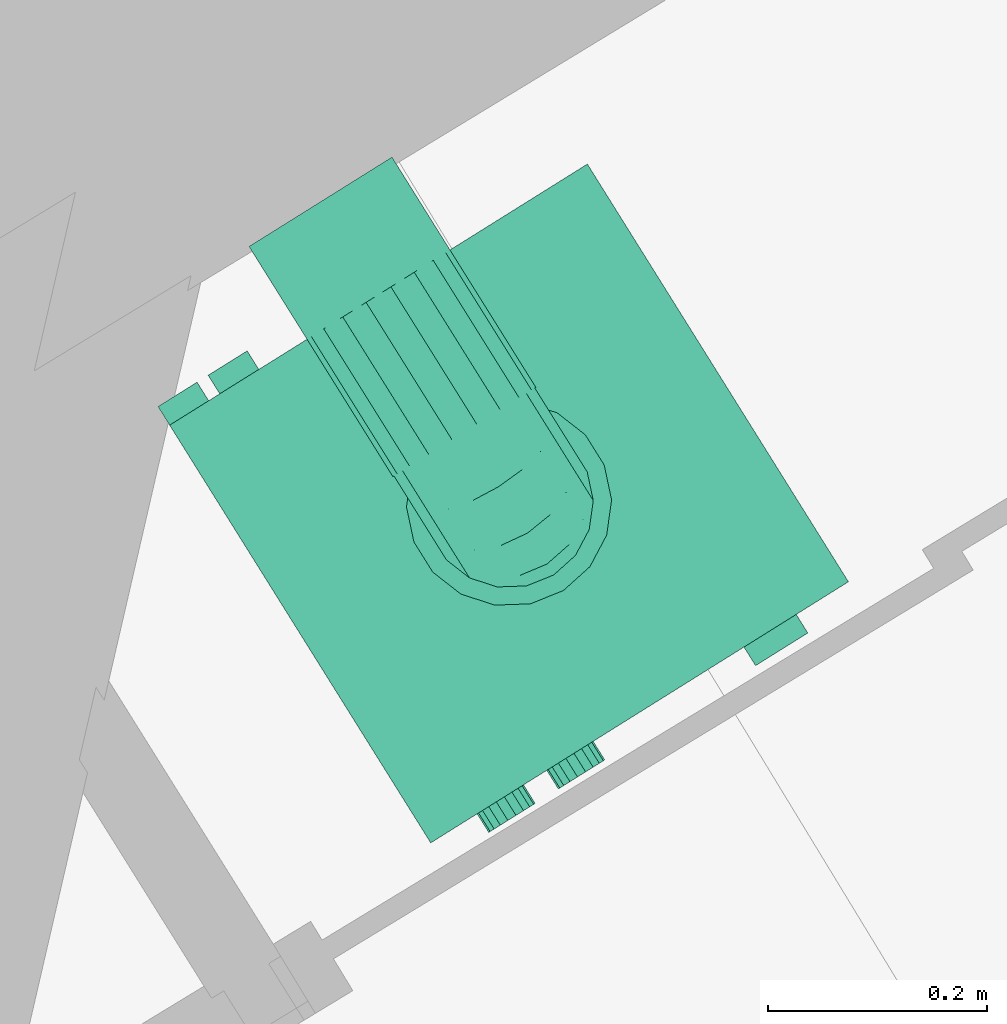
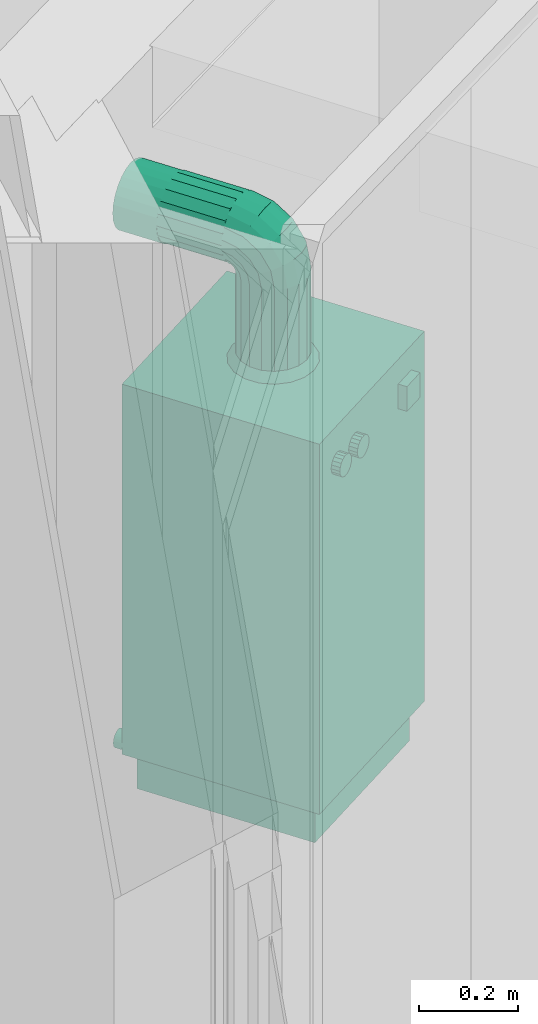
# One storey, part 109 of 119: 1 energy conversion device.
"""IFC2X3 building model written with IfcOpenShell, lengths in metres."""

from ifc_helpers import new_model, entity, si_unit, converted_unit, derived_unit, money_unit, direction, frame, origin_with_axes, place, context, subcontext, project, spatial, open_shell, faceted_brep, surface_model, source, transform, mapped, type_object, element, save


model = new_model("IFC2X3")

# Units and contexts
model_context = context("Model", 3, precision=1e-05, world=origin_with_axes(), true_north=direction((0.0, 1.0)))
body_context = subcontext(model_context, "Body", "Model", "MODEL_VIEW")
ifc_project = project(units=[si_unit("LENGTHUNIT", "METRE"), si_unit("AREAUNIT", "SQUARE_METRE"), si_unit("VOLUMEUNIT", "CUBIC_METRE"), converted_unit("PLANEANGLEUNIT", "DEGREE", entity("IfcPlaneAngleMeasure", 0.0174532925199), si_unit("PLANEANGLEUNIT", "RADIAN"), dimensions=[0, 0, 0, 0, 0, 0, 0]), si_unit("SOLIDANGLEUNIT", "STERADIAN"), money_unit("EUR"), converted_unit("TIMEUNIT", "Year", entity("IfcTimeMeasure", 31556926.0), si_unit("TIMEUNIT", "SECOND"), dimensions=[0, 0, 1, 0, 0, 0, 0]), si_unit("MASSUNIT", "GRAM", prefix="KILO"), si_unit("THERMODYNAMICTEMPERATUREUNIT", "DEGREE_CELSIUS"), si_unit("LUMINOUSINTENSITYUNIT", "LUMEN"), si_unit("ENERGYUNIT", "JOULE", prefix="MEGA"), derived_unit("THERMALCONDUCTANCEUNIT", [(si_unit("POWERUNIT", "WATT"), 1), (si_unit("LENGTHUNIT", "METRE"), -1), (si_unit("THERMODYNAMICTEMPERATUREUNIT", "KELVIN"), -1)]), derived_unit("SPECIFICHEATCAPACITYUNIT", [(si_unit("ENERGYUNIT", "JOULE"), 1), (si_unit("MASSUNIT", "GRAM", prefix="KILO"), -1), (si_unit("THERMODYNAMICTEMPERATUREUNIT", "KELVIN"), -1)]), derived_unit("MASSDENSITYUNIT", [(si_unit("MASSUNIT", "GRAM", prefix="KILO"), 1), (si_unit("VOLUMEUNIT", "CUBIC_METRE"), -1)])], contexts=[model_context])

# Site, building, storey
site_placement = place(None, origin_with_axes())
site = spatial("IfcSite", under=ifc_project, at=site_placement, Name="Site", CompositionType="ELEMENT")
building_placement = place(site_placement, origin_with_axes())
building = spatial("IfcBuilding", under=site, at=building_placement, Name="Bâtiment", CompositionType="ELEMENT")
storey_placement = place(building_placement, origin_with_axes())
storey = spatial("IfcBuildingStorey", under=building, at=storey_placement, Name="Rez-de-chaussée", CompositionType="ELEMENT", Elevation=0.0)

# Energy conversion device
boiler_type = type_object("IfcBoilerType", Name="Chaudière à gaz 23", PredefinedType="WATER")
shared_shape = source(origin_with_axes(), body_context, "Body", "SurfaceModel", [
    surface_model("IfcShellBasedSurfaceModel", [(-0.2, 0.45, 0.090909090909), (-0.2, 0.47, 0.090909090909), (-0.194564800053, 0.47, 0.0916246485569), (-0.194564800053, 0.45, 0.0916246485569), (-0.205435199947, 0.45, 0.0916246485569), (-0.205435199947, 0.47, 0.0916246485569), (-0.1895, 0.47, 0.0937225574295), (-0.1895, 0.45, 0.0937225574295), (-0.2105, 0.45, 0.0937225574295), (-0.2105, 0.47, 0.0937225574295), (-0.185150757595, 0.47, 0.0970598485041), (-0.185150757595, 0.45, 0.0970598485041), (-0.214849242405, 0.45, 0.0970598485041), (-0.214849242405, 0.47, 0.0970598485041), (-0.181813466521, 0.47, 0.101409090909), (-0.181813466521, 0.45, 0.101409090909), (-0.218186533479, 0.45, 0.101409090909), (-0.218186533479, 0.47, 0.101409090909), (-0.179715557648, 0.47, 0.106473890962), (-0.179715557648, 0.45, 0.106473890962), (-0.220284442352, 0.45, 0.106473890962), (-0.220284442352, 0.47, 0.106473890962), (-0.179, 0.47, 0.111909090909), (-0.179, 0.45, 0.111909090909), (-0.221, 0.45, 0.111909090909), (-0.221, 0.47, 0.111909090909), (-0.179715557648, 0.47, 0.117344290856), (-0.179715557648, 0.45, 0.117344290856), (-0.220284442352, 0.45, 0.117344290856), (-0.220284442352, 0.47, 0.117344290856), (-0.181813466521, 0.47, 0.122409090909), (-0.181813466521, 0.45, 0.122409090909), (-0.218186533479, 0.45, 0.122409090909), (-0.218186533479, 0.47, 0.122409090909), (-0.185150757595, 0.47, 0.126758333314), (-0.185150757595, 0.45, 0.126758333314), (-0.214849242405, 0.45, 0.126758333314), (-0.214849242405, 0.47, 0.126758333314), (-0.1895, 0.47, 0.130095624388), (-0.1895, 0.45, 0.130095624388), (-0.2105, 0.45, 0.130095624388), (-0.2105, 0.47, 0.130095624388), (-0.194564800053, 0.47, 0.132193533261), (-0.194564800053, 0.45, 0.132193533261), (-0.205435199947, 0.45, 0.132193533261), (-0.205435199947, 0.47, 0.132193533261), (-0.2, 0.47, 0.132909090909), (-0.2, 0.45, 0.132909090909)], [open_shell([[[0, 1, 2, 3]], [[4, 5, 1, 0]], [[3, 2, 6, 7]], [[8, 9, 5, 4]], [[7, 6, 10, 11]], [[12, 13, 9, 8]], [[11, 10, 14, 15]], [[16, 17, 13, 12]], [[15, 14, 18, 19]], [[20, 21, 17, 16]], [[19, 18, 22, 23]], [[24, 25, 21, 20]], [[23, 22, 26, 27]], [[28, 29, 25, 24]], [[27, 26, 30, 31]], [[32, 33, 29, 28]], [[31, 30, 34, 35]], [[36, 37, 33, 32]], [[35, 34, 38, 39]], [[40, 41, 37, 36]], [[39, 38, 42, 43]], [[44, 45, 41, 40]], [[43, 42, 46, 47]], [[47, 46, 45, 44]]])]),
    surface_model("IfcShellBasedSurfaceModel", [(-0.375, 0.45, 0.090909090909), (-0.375, 0.47, 0.090909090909), (-0.369564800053, 0.47, 0.0916246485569), (-0.369564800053, 0.45, 0.0916246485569), (-0.380435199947, 0.45, 0.0916246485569), (-0.380435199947, 0.47, 0.0916246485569), (-0.3645, 0.47, 0.0937225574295), (-0.3645, 0.45, 0.0937225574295), (-0.3855, 0.45, 0.0937225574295), (-0.3855, 0.47, 0.0937225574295), (-0.360150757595, 0.47, 0.0970598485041), (-0.360150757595, 0.45, 0.0970598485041), (-0.389849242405, 0.45, 0.0970598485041), (-0.389849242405, 0.47, 0.0970598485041), (-0.356813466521, 0.47, 0.101409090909), (-0.356813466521, 0.45, 0.101409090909), (-0.393186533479, 0.45, 0.101409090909), (-0.393186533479, 0.47, 0.101409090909), (-0.354715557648, 0.47, 0.106473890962), (-0.354715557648, 0.45, 0.106473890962), (-0.395284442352, 0.45, 0.106473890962), (-0.395284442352, 0.47, 0.106473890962), (-0.354, 0.47, 0.111909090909), (-0.354, 0.45, 0.111909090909), (-0.396, 0.45, 0.111909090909), (-0.396, 0.47, 0.111909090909), (-0.354715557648, 0.47, 0.117344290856), (-0.354715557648, 0.45, 0.117344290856), (-0.395284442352, 0.45, 0.117344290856), (-0.395284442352, 0.47, 0.117344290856), (-0.356813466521, 0.47, 0.122409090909), (-0.356813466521, 0.45, 0.122409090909), (-0.393186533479, 0.45, 0.122409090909), (-0.393186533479, 0.47, 0.122409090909), (-0.360150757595, 0.47, 0.126758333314), (-0.360150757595, 0.45, 0.126758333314), (-0.389849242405, 0.45, 0.126758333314), (-0.389849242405, 0.47, 0.126758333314), (-0.3645, 0.47, 0.130095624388), (-0.3645, 0.45, 0.130095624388), (-0.3855, 0.45, 0.130095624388), (-0.3855, 0.47, 0.130095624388), (-0.369564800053, 0.47, 0.132193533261), (-0.369564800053, 0.45, 0.132193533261), (-0.380435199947, 0.45, 0.132193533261), (-0.380435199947, 0.47, 0.132193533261), (-0.375, 0.47, 0.132909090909), (-0.375, 0.45, 0.132909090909)], [open_shell([[[0, 1, 2, 3]], [[4, 5, 1, 0]], [[3, 2, 6, 7]], [[8, 9, 5, 4]], [[7, 6, 10, 11]], [[12, 13, 9, 8]], [[11, 10, 14, 15]], [[16, 17, 13, 12]], [[15, 14, 18, 19]], [[20, 21, 17, 16]], [[19, 18, 22, 23]], [[24, 25, 21, 20]], [[23, 22, 26, 27]], [[28, 29, 25, 24]], [[27, 26, 30, 31]], [[32, 33, 29, 28]], [[31, 30, 34, 35]], [[36, 37, 33, 32]], [[35, 34, 38, 39]], [[40, 41, 37, 36]], [[39, 38, 42, 43]], [[44, 45, 41, 40]], [[43, 42, 46, 47]], [[47, 46, 45, 44]]])]),
    surface_model("IfcShellBasedSurfaceModel", [(-0.429, 0.45, 0.090909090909), (-0.429, 0.47, 0.090909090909), (-0.423564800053, 0.47, 0.0916246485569), (-0.423564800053, 0.45, 0.0916246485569), (-0.434435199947, 0.45, 0.0916246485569), (-0.434435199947, 0.47, 0.0916246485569), (-0.4185, 0.47, 0.0937225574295), (-0.4185, 0.45, 0.0937225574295), (-0.4395, 0.45, 0.0937225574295), (-0.4395, 0.47, 0.0937225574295), (-0.414150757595, 0.47, 0.0970598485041), (-0.414150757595, 0.45, 0.0970598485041), (-0.443849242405, 0.45, 0.0970598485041), (-0.443849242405, 0.47, 0.0970598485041), (-0.410813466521, 0.47, 0.101409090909), (-0.410813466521, 0.45, 0.101409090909), (-0.447186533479, 0.45, 0.101409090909), (-0.447186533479, 0.47, 0.101409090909), (-0.408715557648, 0.47, 0.106473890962), (-0.408715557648, 0.45, 0.106473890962), (-0.449284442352, 0.45, 0.106473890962), (-0.449284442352, 0.47, 0.106473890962), (-0.408, 0.47, 0.111909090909), (-0.408, 0.45, 0.111909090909), (-0.45, 0.45, 0.111909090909), (-0.45, 0.47, 0.111909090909), (-0.408715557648, 0.47, 0.117344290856), (-0.408715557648, 0.45, 0.117344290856), (-0.449284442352, 0.45, 0.117344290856), (-0.449284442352, 0.47, 0.117344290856), (-0.410813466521, 0.47, 0.122409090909), (-0.410813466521, 0.45, 0.122409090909), (-0.447186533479, 0.45, 0.122409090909), (-0.447186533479, 0.47, 0.122409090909), (-0.414150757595, 0.47, 0.126758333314), (-0.414150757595, 0.45, 0.126758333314), (-0.443849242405, 0.45, 0.126758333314), (-0.443849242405, 0.47, 0.126758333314), (-0.4185, 0.47, 0.130095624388), (-0.4185, 0.45, 0.130095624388), (-0.4395, 0.45, 0.130095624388), (-0.4395, 0.47, 0.130095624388), (-0.423564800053, 0.47, 0.132193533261), (-0.423564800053, 0.45, 0.132193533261), (-0.434435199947, 0.45, 0.132193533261), (-0.434435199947, 0.47, 0.132193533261), (-0.429, 0.47, 0.132909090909), (-0.429, 0.45, 0.132909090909)], [open_shell([[[0, 1, 2, 3]], [[4, 5, 1, 0]], [[3, 2, 6, 7]], [[8, 9, 5, 4]], [[7, 6, 10, 11]], [[12, 13, 9, 8]], [[11, 10, 14, 15]], [[16, 17, 13, 12]], [[15, 14, 18, 19]], [[20, 21, 17, 16]], [[19, 18, 22, 23]], [[24, 25, 21, 20]], [[23, 22, 26, 27]], [[28, 29, 25, 24]], [[27, 26, 30, 31]], [[32, 33, 29, 28]], [[31, 30, 34, 35]], [[36, 37, 33, 32]], [[35, 34, 38, 39]], [[40, 41, 37, 36]], [[39, 38, 42, 43]], [[44, 45, 41, 40]], [[43, 42, 46, 47]], [[47, 46, 45, 44]]])]),
    surface_model("IfcShellBasedSurfaceModel", [(-0.225, 0.45, 1.218), (-0.225, 0.55, 1.218), (-0.205070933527, 0.55, 1.22062371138), (-0.205070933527, 0.45, 1.22062371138), (-0.244929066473, 0.45, 1.22062371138), (-0.244929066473, 0.55, 1.22062371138), (-0.1865, 0.55, 1.22831604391), (-0.1865, 0.45, 1.22831604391), (-0.2635, 0.45, 1.22831604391), (-0.2635, 0.55, 1.22831604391), (-0.170552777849, 0.55, 1.24055277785), (-0.170552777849, 0.45, 1.24055277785), (-0.279447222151, 0.45, 1.24055277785), (-0.279447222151, 0.55, 1.24055277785), (-0.158316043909, 0.55, 1.2565), (-0.158316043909, 0.45, 1.2565), (-0.291683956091, 0.45, 1.2565), (-0.291683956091, 0.55, 1.2565), (-0.150623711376, 0.55, 1.27507093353), (-0.150623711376, 0.45, 1.27507093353), (-0.299376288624, 0.45, 1.27507093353), (-0.299376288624, 0.55, 1.27507093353), (-0.148, 0.55, 1.295), (-0.148, 0.45, 1.295), (-0.302, 0.45, 1.295), (-0.302, 0.55, 1.295), (-0.150623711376, 0.55, 1.31492906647), (-0.150623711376, 0.45, 1.31492906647), (-0.299376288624, 0.45, 1.31492906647), (-0.299376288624, 0.55, 1.31492906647), (-0.158316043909, 0.55, 1.3335), (-0.158316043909, 0.45, 1.3335), (-0.291683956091, 0.45, 1.3335), (-0.291683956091, 0.55, 1.3335), (-0.170552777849, 0.55, 1.34944722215), (-0.170552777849, 0.45, 1.34944722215), (-0.279447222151, 0.45, 1.34944722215), (-0.279447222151, 0.55, 1.34944722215), (-0.1865, 0.55, 1.36168395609), (-0.1865, 0.45, 1.36168395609), (-0.2635, 0.45, 1.36168395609), (-0.2635, 0.55, 1.36168395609), (-0.205070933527, 0.55, 1.36937628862), (-0.205070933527, 0.45, 1.36937628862), (-0.244929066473, 0.45, 1.36937628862), (-0.244929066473, 0.55, 1.36937628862), (-0.225, 0.55, 1.372), (-0.225, 0.45, 1.372)], [open_shell([[[0, 1, 2, 3]], [[4, 5, 1, 0]], [[3, 2, 6, 7]], [[8, 9, 5, 4]], [[7, 6, 10, 11]], [[12, 13, 9, 8]], [[11, 10, 14, 15]], [[16, 17, 13, 12]], [[15, 14, 18, 19]], [[20, 21, 17, 16]], [[19, 18, 22, 23]], [[24, 25, 21, 20]], [[23, 22, 26, 27]], [[28, 29, 25, 24]], [[27, 26, 30, 31]], [[32, 33, 29, 28]], [[31, 30, 34, 35]], [[36, 37, 33, 32]], [[35, 34, 38, 39]], [[40, 41, 37, 36]], [[39, 38, 42, 43]], [[44, 45, 41, 40]], [[43, 42, 46, 47]], [[47, 46, 45, 44]]])]),
    faceted_brep([(-0.4275, 0.0225, 0.0), (-0.4275, 0.4275, 0.0), (-0.0225, 0.4275, 0.0), (-0.0225, 0.0225, 0.0), (-0.4275, 0.0225, 0.0909090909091), (-0.4275, 0.4275, 0.0909090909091), (-0.0225, 0.4275, 0.0909090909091), (-0.0225, 0.0225, 0.0909090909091)], [[[0, 1, 2, 3]], [[0, 4, 5, 1]], [[1, 5, 6, 2]], [[2, 6, 7, 3]], [[3, 7, 4, 0]], [[7, 6, 5, 4]]]),
    faceted_brep([(0.0, 0.45, 0.0909090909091), (-0.45, 0.45, 0.0909090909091), (-0.45, 0.45, 1.0), (0.0, 0.45, 1.0), (0.0, 0.0, 0.0909090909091), (-0.45, 0.0, 0.0909090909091), (-0.45, 0.0, 0.818181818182), (-0.45, 0.0225, 0.818181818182), (-0.45, 0.0225, 1.0), (0.0, 0.0225, 1.0), (0.0, 0.0225, 0.818181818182), (0.0, 0.0, 0.818181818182)], [[[0, 1, 2, 3]], [[4, 5, 1, 0]], [[1, 5, 6, 7, 8, 2]], [[3, 2, 8, 9]], [[0, 3, 9, 10, 11, 4]], [[11, 6, 5, 4]], [[10, 7, 6, 11]], [[9, 8, 7, 10]]]),
    faceted_brep([(-0.45, 0.0, 0.818181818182), (-0.45, 0.0225, 0.818181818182), (0.0, 0.0225, 0.818181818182), (0.0, 0.0, 0.818181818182), (-0.45, 0.0, 1.0), (-0.45, 0.0225, 1.0), (0.0, 0.0225, 1.0), (0.0, 0.0, 1.0)], [[[0, 1, 2, 3]], [[0, 4, 5, 1]], [[1, 5, 6, 2]], [[2, 6, 7, 3]], [[3, 7, 4, 0]], [[7, 6, 5, 4]]]),
    faceted_brep([(-0.32349231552, 0.0, 0.900540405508), (-0.325, 0.0, 0.909090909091), (-0.32349231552, 0.0, 0.917641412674), (-0.319151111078, 0.0, 0.925160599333), (-0.3125, 0.0, 0.930741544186), (-0.304341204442, 0.0, 0.933711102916), (-0.295658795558, 0.0, 0.933711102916), (-0.2875, 0.0, 0.930741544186), (-0.280848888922, 0.0, 0.925160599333), (-0.27650768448, 0.0, 0.917641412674), (-0.275, 0.0, 0.909090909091), (-0.27650768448, 0.0, 0.900540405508), (-0.280848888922, 0.0, 0.893021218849), (-0.2875, 0.0, 0.887440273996), (-0.295658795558, 0.0, 0.884470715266), (-0.304341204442, 0.0, 0.884470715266), (-0.3125, 0.0, 0.887440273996), (-0.319151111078, 0.0, 0.893021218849), (-0.32349231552, -0.02, 0.900540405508), (-0.325, -0.02, 0.909090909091), (-0.32349231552, -0.02, 0.917641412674), (-0.319151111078, -0.02, 0.925160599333), (-0.3125, -0.02, 0.930741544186), (-0.304341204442, -0.02, 0.933711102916), (-0.295658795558, -0.02, 0.933711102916), (-0.2875, -0.02, 0.930741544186), (-0.280848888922, -0.02, 0.925160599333), (-0.27650768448, -0.02, 0.917641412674), (-0.275, -0.02, 0.909090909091), (-0.27650768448, -0.02, 0.900540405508), (-0.280848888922, -0.02, 0.893021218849), (-0.2875, -0.02, 0.887440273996), (-0.295658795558, -0.02, 0.884470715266), (-0.304341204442, -0.02, 0.884470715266), (-0.3125, -0.02, 0.887440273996), (-0.319151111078, -0.02, 0.893021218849)], [[[0, 1, 2, 3, 4, 5, 6, 7, 8, 9, 10, 11, 12, 13, 14, 15, 16, 17]], [[0, 18, 19, 1]], [[1, 19, 20, 2]], [[2, 20, 21, 3]], [[3, 21, 22, 4]], [[4, 22, 23, 5]], [[5, 23, 24, 6]], [[6, 24, 25, 7]], [[7, 25, 26, 8]], [[8, 26, 27, 9]], [[9, 27, 28, 10]], [[10, 28, 29, 11]], [[11, 29, 30, 12]], [[12, 30, 31, 13]], [[13, 31, 32, 14]], [[14, 32, 33, 15]], [[15, 33, 34, 16]], [[16, 34, 35, 17]], [[17, 35, 18, 0]], [[18, 35, 34, 33, 32, 31, 30, 29, 28, 27, 26, 25, 24, 23, 22, 21, 20, 19]]]),
    faceted_brep([(-0.39849231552, 0.0, 0.900540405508), (-0.4, 0.0, 0.909090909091), (-0.39849231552, 0.0, 0.917641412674), (-0.394151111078, 0.0, 0.925160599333), (-0.3875, 0.0, 0.930741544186), (-0.379341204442, 0.0, 0.933711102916), (-0.370658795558, 0.0, 0.933711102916), (-0.3625, 0.0, 0.930741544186), (-0.355848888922, 0.0, 0.925160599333), (-0.35150768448, 0.0, 0.917641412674), (-0.35, 0.0, 0.909090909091), (-0.35150768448, 0.0, 0.900540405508), (-0.355848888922, 0.0, 0.893021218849), (-0.3625, 0.0, 0.887440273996), (-0.370658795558, 0.0, 0.884470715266), (-0.379341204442, 0.0, 0.884470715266), (-0.3875, 0.0, 0.887440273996), (-0.394151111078, 0.0, 0.893021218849), (-0.39849231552, -0.02, 0.900540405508), (-0.4, -0.02, 0.909090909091), (-0.39849231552, -0.02, 0.917641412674), (-0.394151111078, -0.02, 0.925160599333), (-0.3875, -0.02, 0.930741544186), (-0.379341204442, -0.02, 0.933711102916), (-0.370658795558, -0.02, 0.933711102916), (-0.3625, -0.02, 0.930741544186), (-0.355848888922, -0.02, 0.925160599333), (-0.35150768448, -0.02, 0.917641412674), (-0.35, -0.02, 0.909090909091), (-0.35150768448, -0.02, 0.900540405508), (-0.355848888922, -0.02, 0.893021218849), (-0.3625, -0.02, 0.887440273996), (-0.370658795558, -0.02, 0.884470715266), (-0.379341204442, -0.02, 0.884470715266), (-0.3875, -0.02, 0.887440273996), (-0.394151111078, -0.02, 0.893021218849)], [[[0, 1, 2, 3, 4, 5, 6, 7, 8, 9, 10, 11, 12, 13, 14, 15, 16, 17]], [[0, 18, 19, 1]], [[1, 19, 20, 2]], [[2, 20, 21, 3]], [[3, 21, 22, 4]], [[4, 22, 23, 5]], [[5, 23, 24, 6]], [[6, 24, 25, 7]], [[7, 25, 26, 8]], [[8, 26, 27, 9]], [[9, 27, 28, 10]], [[10, 28, 29, 11]], [[11, 29, 30, 12]], [[12, 30, 31, 13]], [[13, 31, 32, 14]], [[14, 32, 33, 15]], [[15, 33, 34, 16]], [[16, 34, 35, 17]], [[17, 35, 18, 0]], [[18, 35, 34, 33, 32, 31, 30, 29, 28, 27, 26, 25, 24, 23, 22, 21, 20, 19]]]),
    faceted_brep([(-0.1125, 0.0, 0.878787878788), (-0.1125, 0.0, 0.939393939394), (-0.05625, 0.0, 0.939393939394), (-0.05625, 0.0, 0.878787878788), (-0.1125, -0.02, 0.878787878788), (-0.1125, -0.02, 0.939393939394), (-0.05625, -0.02, 0.939393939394), (-0.05625, -0.02, 0.878787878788)], [[[0, 1, 2, 3]], [[0, 4, 5, 1]], [[1, 5, 6, 2]], [[2, 6, 7, 3]], [[3, 7, 4, 0]], [[7, 6, 5, 4]]]),
    surface_model("IfcShellBasedSurfaceModel", [(-0.198664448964, 0.297356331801, 1.22), (-0.198664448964, 0.297356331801, 1.02), (-0.225, 0.302, 1.02), (-0.225, 0.302, 1.22), (-0.175505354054, 0.28398542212, 1.22), (-0.175505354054, 0.28398542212, 1.02), (-0.192935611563, 0.313096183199, 1.0), (-0.225, 0.31875, 1.0), (-0.251335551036, 0.297356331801, 1.02), (-0.251335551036, 0.297356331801, 1.22), (-0.158316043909, 0.2635, 1.22), (-0.158316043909, 0.2635, 1.02), (-0.164738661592, 0.296816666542, 1.0), (-0.257064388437, 0.313096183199, 1.0), (-0.274494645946, 0.28398542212, 1.02), (-0.274494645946, 0.28398542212, 1.22), (-0.149169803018, 0.23837090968, 1.22), (-0.149169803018, 0.23837090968, 1.02), (-0.143810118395, 0.271875, 1.0), (-0.285261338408, 0.296816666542, 1.0), (-0.291683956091, 0.2635, 1.02), (-0.291683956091, 0.2635, 1.22), (-0.149169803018, 0.21162909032, 1.22), (-0.149169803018, 0.21162909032, 1.02), (-0.132674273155, 0.241279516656, 1.0), (-0.306189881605, 0.271875, 1.0), (-0.300830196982, 0.23837090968, 1.02), (-0.300830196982, 0.23837090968, 1.22), (-0.158316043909, 0.1865, 1.22), (-0.158316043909, 0.1865, 1.02), (-0.132674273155, 0.208720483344, 1.0), (-0.317325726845, 0.241279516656, 1.0), (-0.300830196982, 0.21162909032, 1.02), (-0.300830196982, 0.21162909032, 1.22), (-0.175505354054, 0.16601457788, 1.22), (-0.175505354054, 0.16601457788, 1.02), (-0.143810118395, 0.178125, 1.0), (-0.317325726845, 0.208720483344, 1.0), (-0.291683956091, 0.1865, 1.02), (-0.291683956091, 0.1865, 1.22), (-0.198664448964, 0.152643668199, 1.22), (-0.198664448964, 0.152643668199, 1.02), (-0.164738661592, 0.153183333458, 1.0), (-0.306189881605, 0.178125, 1.0), (-0.274494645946, 0.16601457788, 1.02), (-0.274494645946, 0.16601457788, 1.22), (-0.225, 0.148, 1.22), (-0.225, 0.148, 1.02), (-0.192935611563, 0.136903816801, 1.0), (-0.285261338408, 0.153183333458, 1.0), (-0.251335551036, 0.152643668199, 1.02), (-0.251335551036, 0.152643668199, 1.22), (-0.225, 0.13125, 1.0), (-0.257064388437, 0.136903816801, 1.0)], [open_shell([[[0, 1, 2, 3]], [[4, 5, 1, 0]], [[1, 6, 7, 2]], [[3, 2, 8, 9]], [[10, 11, 5, 4]], [[5, 12, 6, 1]], [[2, 7, 13, 8]], [[9, 8, 14, 15]], [[16, 17, 11, 10]], [[11, 18, 12, 5]], [[8, 13, 19, 14]], [[15, 14, 20, 21]], [[22, 23, 17, 16]], [[17, 24, 18, 11]], [[14, 19, 25, 20]], [[21, 20, 26, 27]], [[28, 29, 23, 22]], [[23, 30, 24, 17]], [[20, 25, 31, 26]], [[27, 26, 32, 33]], [[34, 35, 29, 28]], [[29, 36, 30, 23]], [[26, 31, 37, 32]], [[33, 32, 38, 39]], [[40, 41, 35, 34]], [[35, 42, 36, 29]], [[32, 37, 43, 38]], [[39, 38, 44, 45]], [[46, 47, 41, 40]], [[41, 48, 42, 35]], [[38, 43, 49, 44]], [[45, 44, 50, 51]], [[51, 50, 47, 46]], [[47, 52, 48, 41]], [[44, 49, 53, 50]], [[50, 53, 52, 47]]])]),
    faceted_brep([(-0.300830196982, 0.218508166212, 1.2545834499), (-0.300830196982, 0.21162909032, 1.22), (-0.291683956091, 0.1865, 1.22), (-0.291683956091, 0.195291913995, 1.26419993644), (-0.300830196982, 0.243214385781, 1.24434979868), (-0.300830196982, 0.23837090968, 1.22), (-0.291683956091, 0.2635, 1.22), (-0.274494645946, 0.28398542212, 1.22), (-0.251335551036, 0.297356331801, 1.22), (-0.225, 0.302, 1.22), (-0.198664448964, 0.297356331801, 1.22), (-0.175505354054, 0.28398542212, 1.22), (-0.158316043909, 0.2635, 1.22), (-0.149169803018, 0.23837090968, 1.22), (-0.149169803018, 0.21162909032, 1.22), (-0.158316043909, 0.1865, 1.22), (-0.175505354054, 0.16601457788, 1.22), (-0.198664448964, 0.152643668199, 1.22), (-0.225, 0.148, 1.22), (-0.251335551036, 0.152643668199, 1.22), (-0.274494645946, 0.16601457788, 1.22), (-0.274494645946, 0.176365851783, 1.27203936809), (-0.300830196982, 0.238098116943, 1.28390188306), (-0.291683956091, 0.220329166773, 1.30167083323), (-0.300830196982, 0.257007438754, 1.26499256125), (-0.291683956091, 0.266430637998, 1.23473331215), (-0.274494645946, 0.28535670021, 1.2268938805), (-0.251335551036, 0.297709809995, 1.22177705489), (-0.198664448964, 0.297709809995, 1.22177705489), (-0.175505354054, 0.28535670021, 1.2268938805), (-0.158316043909, 0.266430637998, 1.23473331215), (-0.149169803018, 0.243214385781, 1.24434979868), (-0.149169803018, 0.218508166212, 1.2545834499), (-0.158316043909, 0.195291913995, 1.26419993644), (-0.175505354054, 0.176365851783, 1.27203936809), (-0.198664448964, 0.164012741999, 1.2771561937), (-0.225, 0.159722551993, 1.27893324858), (-0.251335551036, 0.164012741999, 1.2771561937), (-0.274494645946, 0.205843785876, 1.31615621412), (-0.291683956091, 0.257800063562, 1.32670808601), (-0.300830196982, 0.267416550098, 1.30349183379), (-0.300830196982, 0.277650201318, 1.27878561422), (-0.291683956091, 0.274776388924, 1.24722361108), (-0.274494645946, 0.289261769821, 1.23273823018), (-0.251335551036, 0.298716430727, 1.22328356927), (-0.198664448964, 0.298716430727, 1.22328356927), (-0.175505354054, 0.289261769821, 1.23273823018), (-0.158316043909, 0.274776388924, 1.24722361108), (-0.149169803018, 0.257007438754, 1.26499256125), (-0.149169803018, 0.238098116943, 1.28390188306), (-0.158316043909, 0.220329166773, 1.30167083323), (-0.175505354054, 0.205843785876, 1.31615621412), (-0.198664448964, 0.196389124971, 1.32561087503), (-0.225, 0.193105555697, 1.3288944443), (-0.251335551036, 0.196389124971, 1.32561087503), (-0.274494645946, 0.249960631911, 1.34563414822), (-0.291683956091, 0.302, 1.3355), (-0.300830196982, 0.302, 1.31037090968), (-0.300830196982, 0.302, 1.28362909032), (-0.291683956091, 0.287266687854, 1.255569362), (-0.274494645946, 0.295106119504, 1.23664329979), (-0.251335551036, 0.300222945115, 1.22429019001), (-0.198664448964, 0.300222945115, 1.22429019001), (-0.175505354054, 0.295106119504, 1.23664329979), (-0.158316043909, 0.287266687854, 1.255569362), (-0.149169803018, 0.277650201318, 1.27878561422), (-0.149169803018, 0.267416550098, 1.30349183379), (-0.158316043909, 0.257800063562, 1.32670808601), (-0.175505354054, 0.249960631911, 1.34563414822), (-0.198664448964, 0.244843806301, 1.357987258), (-0.225, 0.243066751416, 1.36227744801), (-0.251335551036, 0.244843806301, 1.357987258), (-0.274494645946, 0.302, 1.35598542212), (-0.291683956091, 0.302, 1.2585), (-0.251335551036, 0.302, 1.3693563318), (-0.225, 0.302, 1.374), (-0.198664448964, 0.302, 1.3693563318), (-0.175505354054, 0.302, 1.35598542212), (-0.158316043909, 0.302, 1.3355), (-0.149169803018, 0.302, 1.31037090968), (-0.149169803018, 0.302, 1.28362909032), (-0.158316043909, 0.302, 1.2585), (-0.175505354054, 0.302, 1.23801457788), (-0.198664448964, 0.302, 1.2246436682), (-0.251335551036, 0.302, 1.2246436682), (-0.274494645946, 0.302, 1.23801457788)], [[[0, 1, 2, 3]], [[1, 0, 4, 5]], [[2, 1, 5, 6, 7, 8, 9, 10, 11, 12, 13, 14, 15, 16, 17, 18, 19, 20]], [[3, 2, 20, 21]], [[22, 0, 3, 23]], [[0, 22, 24, 4]], [[6, 5, 4, 25]], [[26, 7, 6, 25]], [[7, 26, 27, 8]], [[8, 27, 9]], [[28, 10, 9]], [[10, 28, 29, 11]], [[30, 12, 11, 29]], [[12, 30, 31, 13]], [[32, 14, 13, 31]], [[15, 14, 32, 33]], [[34, 16, 15, 33]], [[17, 16, 34, 35]], [[36, 18, 17, 35]], [[19, 18, 36, 37]], [[21, 20, 19, 37]], [[23, 3, 21, 38]], [[22, 23, 39, 40]], [[24, 22, 40, 41]], [[4, 24, 42, 25]], [[43, 26, 25, 42]], [[26, 43, 44, 27]], [[27, 44, 9]], [[45, 28, 9]], [[28, 45, 46, 29]], [[29, 46, 47, 30]], [[31, 30, 47, 48]], [[49, 32, 31, 48]], [[32, 49, 50, 33]], [[51, 34, 33, 50]], [[35, 34, 51, 52]], [[53, 36, 35, 52]], [[54, 37, 36, 53]], [[38, 21, 37, 54]], [[39, 23, 38, 55]], [[40, 39, 56, 57]], [[41, 40, 57, 58]], [[59, 42, 24, 41]], [[42, 59, 60, 43]], [[43, 60, 61, 44]], [[44, 61, 9]], [[62, 45, 9]], [[45, 62, 63, 46]], [[46, 63, 64, 47]], [[47, 64, 65, 48]], [[66, 49, 48, 65]], [[50, 49, 66, 67]], [[68, 51, 50, 67]], [[52, 51, 68, 69]], [[53, 52, 69, 70]], [[71, 54, 53, 70]], [[55, 38, 54, 71]], [[56, 39, 55, 72]], [[73, 58, 57, 56, 72, 74, 75, 76, 77, 78, 79, 80, 81, 82, 83, 9, 84, 85]], [[59, 41, 58, 73]], [[59, 73, 85, 60]], [[60, 85, 84, 61]], [[61, 84, 9]], [[62, 9, 83]], [[63, 62, 83, 82]], [[63, 82, 81, 64]], [[65, 64, 81, 80]], [[66, 65, 80, 79]], [[67, 66, 79, 78]], [[77, 68, 67, 78]], [[69, 68, 77, 76]], [[75, 70, 69, 76]], [[71, 70, 75, 74]], [[72, 55, 71, 74]]]),
    surface_model("IfcShellBasedSurfaceModel", [(-0.152643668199, 0.45, 1.32333555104), (-0.152643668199, 0.302, 1.32333555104), (-0.148, 0.302, 1.297), (-0.148, 0.45, 1.297), (-0.16601457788, 0.45, 1.34649464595), (-0.16601457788, 0.302, 1.34649464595), (-0.152643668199, 0.302, 1.27066444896), (-0.152643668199, 0.45, 1.27066444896), (-0.1865, 0.45, 1.36368395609), (-0.1865, 0.302, 1.36368395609), (-0.16601457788, 0.302, 1.24750535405), (-0.16601457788, 0.45, 1.24750535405), (-0.21162909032, 0.45, 1.37283019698), (-0.21162909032, 0.302, 1.37283019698), (-0.1865, 0.302, 1.23031604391), (-0.1865, 0.45, 1.23031604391), (-0.23837090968, 0.45, 1.37283019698), (-0.23837090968, 0.302, 1.37283019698), (-0.21162909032, 0.302, 1.22116980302), (-0.21162909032, 0.45, 1.22116980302), (-0.2635, 0.45, 1.36368395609), (-0.2635, 0.302, 1.36368395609), (-0.23837090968, 0.302, 1.22116980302), (-0.23837090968, 0.45, 1.22116980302), (-0.28398542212, 0.45, 1.34649464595), (-0.28398542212, 0.302, 1.34649464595), (-0.2635, 0.302, 1.23031604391), (-0.2635, 0.45, 1.23031604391), (-0.297356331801, 0.45, 1.32333555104), (-0.297356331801, 0.302, 1.32333555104), (-0.28398542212, 0.302, 1.24750535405), (-0.28398542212, 0.45, 1.24750535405), (-0.302, 0.45, 1.297), (-0.302, 0.302, 1.297), (-0.297356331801, 0.302, 1.27066444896), (-0.297356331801, 0.45, 1.27066444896)], [open_shell([[[0, 1, 2, 3]], [[4, 5, 1, 0]], [[3, 2, 6, 7]], [[8, 9, 5, 4]], [[7, 6, 10, 11]], [[12, 13, 9, 8]], [[11, 10, 14, 15]], [[16, 17, 13, 12]], [[15, 14, 18, 19]], [[20, 21, 17, 16]], [[19, 18, 22, 23]], [[24, 25, 21, 20]], [[23, 22, 26, 27]], [[28, 29, 25, 24]], [[27, 26, 30, 31]], [[32, 33, 29, 28]], [[31, 30, 34, 35]], [[35, 34, 33, 32]]])]),
])
energy_conversion_device_placement = place(storey_placement, frame((-5.9552693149, 17.1486524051, 0.9), z_axis=(0.0, 0.0, 1.0), x_axis=(0.848007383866, 0.52998441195, 0.0)))
element("IfcEnergyConversionDevice", 1, at=energy_conversion_device_placement, inside=storey, type_object=boiler_type, Name="MOB-002", context=body_context, shape_type="MappedRepresentation", body=[
    mapped(shared_shape, transform((0.0, 0.0, 0.0))),
])

save(model, "model.ifc")
